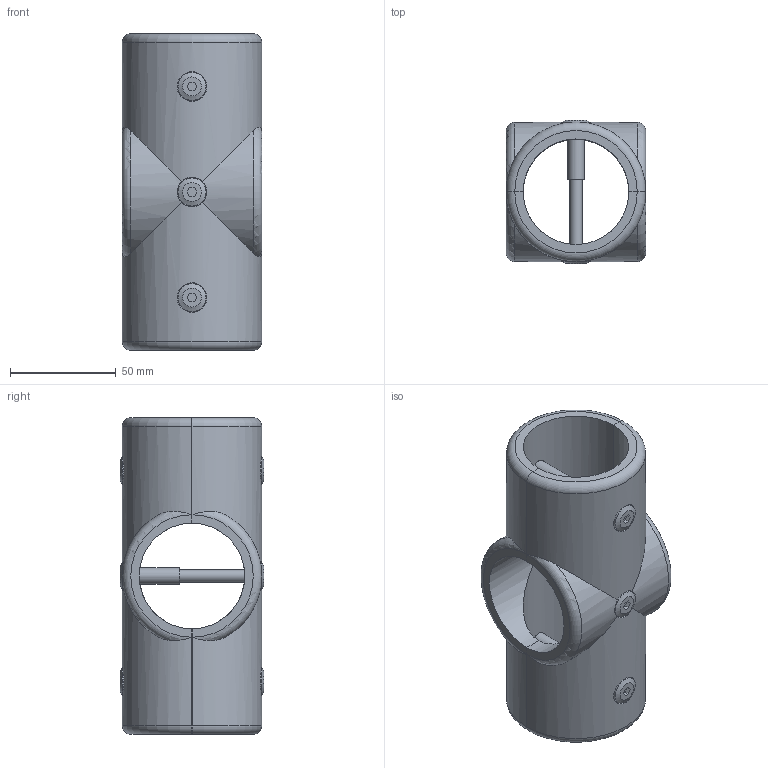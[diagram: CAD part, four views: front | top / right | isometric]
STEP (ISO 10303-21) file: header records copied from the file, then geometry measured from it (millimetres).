
FILE_DESCRIPTION(/* description */ ('FRP HANDRAIL FITTING'),/* implementation_level */ '2;1');
FILE_NAME(/* name */ 'C:\Users\Callum\The Trustee for INKSTONE UNIT TRUST\GRP Australia - Documents\8 Drawings\Handrails\3D Models\Handrail Fittings STEP\MH4 - Connect Assembly.stp',/* time_stamp */ '2022-09-15T13:55:41+10:00',/* author */ ('Callum'),/* organization */ (''),/* preprocessor_version */ 'ST-DEVELOPER v18.1',/* originating_system */ 'Autodesk Inventor 2022',/* authorisation */ '');
FILE_SCHEMA (('AUTOMOTIVE_DESIGN { 1 0 10303 214 3 1 1 }'));
Length unit declared in the file: millimetre
Products named in the file (5): MH4 - Connect Assembly; MH3-Wcross connector; MHR M6 BARREL NUT & SET SCREW; M6x8 Barrel Nut; M6x50 Soc Head Screw
Assembly tree (7 placements, depth 3):
  MH4 - Connect Assembly
    MH3-Wcross connector  x2
    MHR M6 BARREL NUT & SET SCREW  x3
      M6x8 Barrel Nut
      M6x50 Soc Head Screw
Bounding box: 66 x 68 x 150 mm (x, y, z)
Volume: 209309.3 mm3; surface area: 67557.7 mm2
Topology: 8 solids, 8 shells, 142 faces, 334 edges, 225 vertices
Faces by surface type: plane 85, cylinder 37, torus 8, cone 6, bspline 6
Full cylindrical faces by diameter (mm): 5 x3, 6 x3, 8 x3, 8.5 x6, 14 x6
Entity records: 2196 total; most frequent: CARTESIAN_POINT 605, DIRECTION 291, ORIENTED_EDGE 278, EDGE_CURVE 139, AXIS2_PLACEMENT_3D 112, VERTEX_POINT 94, EDGE_LOOP 69, LINE 67
